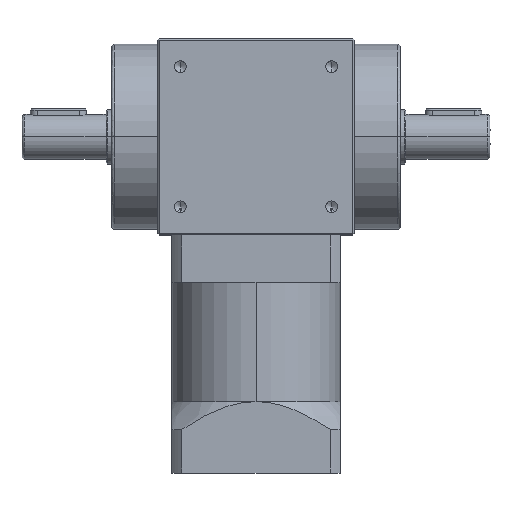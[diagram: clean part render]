
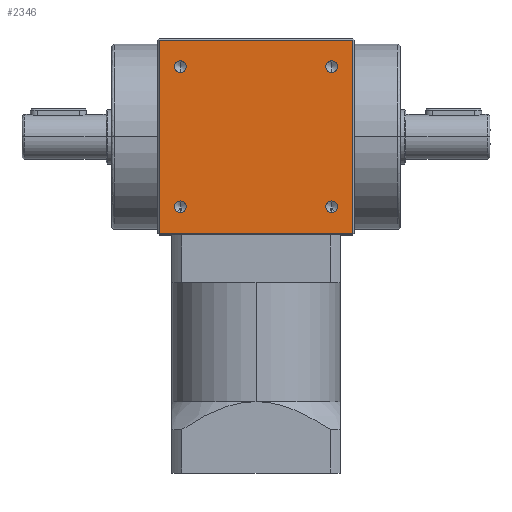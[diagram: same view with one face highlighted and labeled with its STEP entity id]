
A CAD part, top view. The second image highlights one B-rep face of the part: STEP entity #2346.
In plain terms, the highlighted planar face has unit normal (0, 0, 1).
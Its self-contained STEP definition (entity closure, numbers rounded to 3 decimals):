
#126 = CIRCLE ( 'NONE', #5845, 2.1 ) ;
#216 = LINE ( 'NONE', #4686, #7858 ) ;
#289 = CARTESIAN_POINT ( 'NONE',  ( 34.5, -34.5, 35. ) ) ;
#357 = ORIENTED_EDGE ( 'NONE', *, *, #1488, .T. ) ;
#373 = EDGE_CURVE ( 'NONE', #3859, #5530, #2634, .T. ) ;
#486 = EDGE_CURVE ( 'NONE', #835, #4395, #2515, .T. ) ;
#601 = CARTESIAN_POINT ( 'NONE',  ( 27., -25., 35. ) ) ;
#657 = ORIENTED_EDGE ( 'NONE', *, *, #486, .T. ) ;
#798 = CIRCLE ( 'NONE', #2527, 2.1 ) ;
#815 = CARTESIAN_POINT ( 'NONE',  ( 34.5, 34.5, 35. ) ) ;
#821 = AXIS2_PLACEMENT_3D ( 'NONE', #6852, #6837, #6820 ) ;
#835 = VERTEX_POINT ( 'NONE', #6815 ) ;
#970 = EDGE_CURVE ( 'NONE', #6528, #7172, #1789, .T. ) ;
#984 = FACE_OUTER_BOUND ( 'NONE', #3976, .T. ) ;
#1072 = DIRECTION ( 'NONE',  ( 0., -1., 0. ) ) ;
#1167 = EDGE_CURVE ( 'NONE', #2730, #1808, #2734, .T. ) ;
#1360 = DIRECTION ( 'NONE',  ( 0., -1., 0. ) ) ;
#1386 = VERTEX_POINT ( 'NONE', #5901 ) ;
#1415 = CARTESIAN_POINT ( 'NONE',  ( 27., -27.1, 35. ) ) ;
#1438 = CARTESIAN_POINT ( 'NONE',  ( -27., -25., 35. ) ) ;
#1488 = EDGE_CURVE ( 'NONE', #7601, #3009, #216, .T. ) ;
#1616 = CARTESIAN_POINT ( 'NONE',  ( -27., -27.1, 35. ) ) ;
#1651 = DIRECTION ( 'NONE',  ( 0., 0., 1. ) ) ;
#1656 = CARTESIAN_POINT ( 'NONE',  ( -27., -22.9, 35. ) ) ;
#1789 = CIRCLE ( 'NONE', #2056, 2.1 ) ;
#1808 = VERTEX_POINT ( 'NONE', #1616 ) ;
#1841 = DIRECTION ( 'NONE',  ( 0., -1., 0. ) ) ;
#1917 = DIRECTION ( 'NONE',  ( 0., -1., 0. ) ) ;
#1935 = DIRECTION ( 'NONE',  ( 0., 0., -1. ) ) ;
#1964 = CARTESIAN_POINT ( 'NONE',  ( 27., 25., 35. ) ) ;
#2027 = CARTESIAN_POINT ( 'NONE',  ( -27., 25., 35. ) ) ;
#2056 = AXIS2_PLACEMENT_3D ( 'NONE', #7833, #4104, #1072 ) ;
#2138 = AXIS2_PLACEMENT_3D ( 'NONE', #2027, #7214, #2793 ) ;
#2346 = ADVANCED_FACE ( 'NONE', ( #8788, #7158, #4963, #2998, #984 ), #7029, .F. ) ;
#2515 = CIRCLE ( 'NONE', #3167, 2.1 ) ;
#2527 = AXIS2_PLACEMENT_3D ( 'NONE', #3567, #8627, #4330 ) ;
#2539 = CARTESIAN_POINT ( 'NONE',  ( 34.5, 0., 35. ) ) ;
#2569 = EDGE_CURVE ( 'NONE', #5530, #3009, #8776, .T. ) ;
#2578 = ORIENTED_EDGE ( 'NONE', *, *, #373, .F. ) ;
#2634 = LINE ( 'NONE', #9180, #8246 ) ;
#2719 = DIRECTION ( 'NONE',  ( 0., 0., 1. ) ) ;
#2730 = VERTEX_POINT ( 'NONE', #1656 ) ;
#2734 = CIRCLE ( 'NONE', #4869, 2.1 ) ;
#2793 = DIRECTION ( 'NONE',  ( 0., -1., 0. ) ) ;
#2998 = FACE_BOUND ( 'NONE', #8472, .T. ) ;
#3009 = VERTEX_POINT ( 'NONE', #8060 ) ;
#3167 = AXIS2_PLACEMENT_3D ( 'NONE', #1964, #1935, #1917 ) ;
#3260 = DIRECTION ( 'NONE',  ( -1., 0., 0. ) ) ;
#3311 = AXIS2_PLACEMENT_3D ( 'NONE', #601, #5822, #1360 ) ;
#3567 = CARTESIAN_POINT ( 'NONE',  ( 27., 25., 35. ) ) ;
#3686 = ORIENTED_EDGE ( 'NONE', *, *, #4499, .T. ) ;
#3700 = CARTESIAN_POINT ( 'NONE',  ( -27., -25., 35. ) ) ;
#3859 = VERTEX_POINT ( 'NONE', #289 ) ;
#3914 = ORIENTED_EDGE ( 'NONE', *, *, #7986, .F. ) ;
#3976 = EDGE_LOOP ( 'NONE', ( #2578, #7489, #357, #4660 ) ) ;
#4023 = CARTESIAN_POINT ( 'NONE',  ( -34.5, 0., 35. ) ) ;
#4104 = DIRECTION ( 'NONE',  ( 0., 0., -1. ) ) ;
#4330 = DIRECTION ( 'NONE',  ( 0., -1., 0. ) ) ;
#4347 = EDGE_LOOP ( 'NONE', ( #5044, #6757 ) ) ;
#4370 = EDGE_LOOP ( 'NONE', ( #3914, #9069 ) ) ;
#4395 = VERTEX_POINT ( 'NONE', #5635 ) ;
#4462 = DIRECTION ( 'NONE',  ( 0., -1., 0. ) ) ;
#4499 = EDGE_CURVE ( 'NONE', #7172, #6528, #8572, .T. ) ;
#4511 = CIRCLE ( 'NONE', #8002, 2.1 ) ;
#4522 = DIRECTION ( 'NONE',  ( 0., 1., 0. ) ) ;
#4591 = EDGE_LOOP ( 'NONE', ( #8601, #657 ) ) ;
#4660 = ORIENTED_EDGE ( 'NONE', *, *, #2569, .F. ) ;
#4667 = DIRECTION ( 'NONE',  ( -1., 0., 0. ) ) ;
#4686 = CARTESIAN_POINT ( 'NONE',  ( 0., 34.5, 35. ) ) ;
#4802 = CARTESIAN_POINT ( 'NONE',  ( -27., 27.1, 35. ) ) ;
#4869 = AXIS2_PLACEMENT_3D ( 'NONE', #1438, #1651, #1841 ) ;
#4963 = FACE_BOUND ( 'NONE', #4591, .T. ) ;
#5044 = ORIENTED_EDGE ( 'NONE', *, *, #6078, .F. ) ;
#5530 = VERTEX_POINT ( 'NONE', #6470 ) ;
#5635 = CARTESIAN_POINT ( 'NONE',  ( 27., 22.9, 35. ) ) ;
#5822 = DIRECTION ( 'NONE',  ( 0., 0., 1. ) ) ;
#5845 = AXIS2_PLACEMENT_3D ( 'NONE', #7150, #2719, #7855 ) ;
#5901 = CARTESIAN_POINT ( 'NONE',  ( 27., -22.9, 35. ) ) ;
#5930 = CIRCLE ( 'NONE', #3311, 2.1 ) ;
#6078 = EDGE_CURVE ( 'NONE', #6990, #1386, #126, .T. ) ;
#6171 = CARTESIAN_POINT ( 'NONE',  ( -27., 22.9, 35. ) ) ;
#6470 = CARTESIAN_POINT ( 'NONE',  ( -34.5, -34.5, 35. ) ) ;
#6528 = VERTEX_POINT ( 'NONE', #4802 ) ;
#6757 = ORIENTED_EDGE ( 'NONE', *, *, #7432, .F. ) ;
#6815 = CARTESIAN_POINT ( 'NONE',  ( 27., 27.1, 35. ) ) ;
#6820 = DIRECTION ( 'NONE',  ( -1., 0., 0. ) ) ;
#6837 = DIRECTION ( 'NONE',  ( 0., 0., -1. ) ) ;
#6852 = CARTESIAN_POINT ( 'NONE',  ( 0., 0., 35. ) ) ;
#6990 = VERTEX_POINT ( 'NONE', #1415 ) ;
#7029 = PLANE ( 'NONE',  #821 ) ;
#7053 = ORIENTED_EDGE ( 'NONE', *, *, #970, .T. ) ;
#7150 = CARTESIAN_POINT ( 'NONE',  ( 27., -25., 35. ) ) ;
#7158 = FACE_BOUND ( 'NONE', #4370, .T. ) ;
#7172 = VERTEX_POINT ( 'NONE', #6171 ) ;
#7214 = DIRECTION ( 'NONE',  ( 0., 0., -1. ) ) ;
#7268 = EDGE_CURVE ( 'NONE', #7601, #3859, #7616, .T. ) ;
#7432 = EDGE_CURVE ( 'NONE', #1386, #6990, #5930, .T. ) ;
#7489 = ORIENTED_EDGE ( 'NONE', *, *, #7268, .F. ) ;
#7601 = VERTEX_POINT ( 'NONE', #815 ) ;
#7616 = LINE ( 'NONE', #2539, #9450 ) ;
#7833 = CARTESIAN_POINT ( 'NONE',  ( -27., 25., 35. ) ) ;
#7855 = DIRECTION ( 'NONE',  ( 0., -1., 0. ) ) ;
#7858 = VECTOR ( 'NONE', #4667, 1000. ) ;
#7986 = EDGE_CURVE ( 'NONE', #1808, #2730, #4511, .T. ) ;
#8002 = AXIS2_PLACEMENT_3D ( 'NONE', #3700, #8757, #4462 ) ;
#8060 = CARTESIAN_POINT ( 'NONE',  ( -34.5, 34.5, 35. ) ) ;
#8246 = VECTOR ( 'NONE', #3260, 1000. ) ;
#8270 = EDGE_CURVE ( 'NONE', #4395, #835, #798, .T. ) ;
#8401 = DIRECTION ( 'NONE',  ( 0., -1., 0. ) ) ;
#8472 = EDGE_LOOP ( 'NONE', ( #3686, #7053 ) ) ;
#8547 = VECTOR ( 'NONE', #4522, 1000. ) ;
#8572 = CIRCLE ( 'NONE', #2138, 2.1 ) ;
#8601 = ORIENTED_EDGE ( 'NONE', *, *, #8270, .T. ) ;
#8627 = DIRECTION ( 'NONE',  ( 0., 0., -1. ) ) ;
#8757 = DIRECTION ( 'NONE',  ( 0., 0., 1. ) ) ;
#8776 = LINE ( 'NONE', #4023, #8547 ) ;
#8788 = FACE_BOUND ( 'NONE', #4347, .T. ) ;
#9069 = ORIENTED_EDGE ( 'NONE', *, *, #1167, .F. ) ;
#9180 = CARTESIAN_POINT ( 'NONE',  ( 0., -34.5, 35. ) ) ;
#9450 = VECTOR ( 'NONE', #8401, 1000. ) ;
